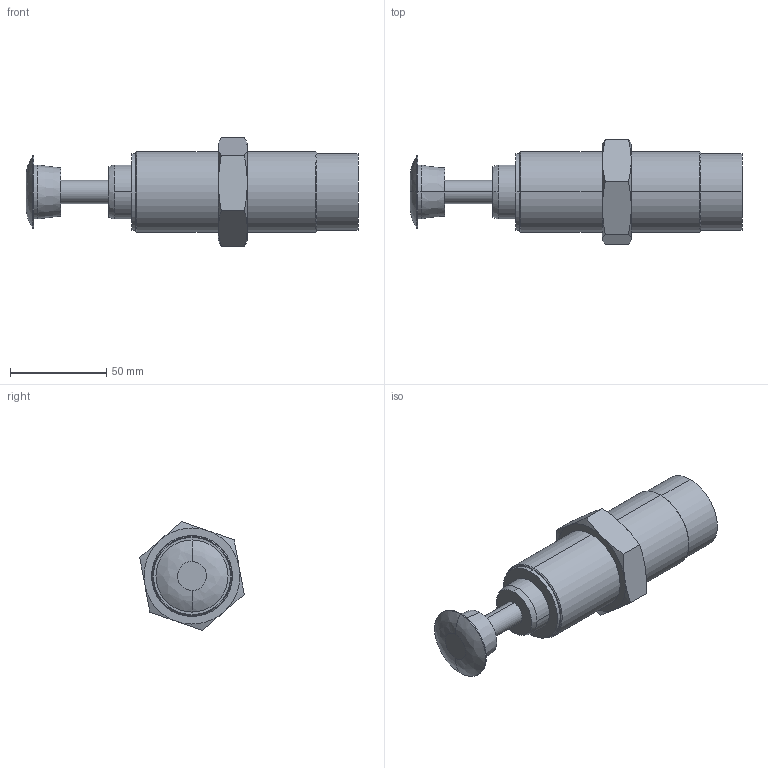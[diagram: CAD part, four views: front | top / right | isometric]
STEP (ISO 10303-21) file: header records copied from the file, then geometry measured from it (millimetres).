
FILE_DESCRIPTION (( 'STEP AP203' ), '1' );
FILE_NAME ('FSA-4225CD.STEP', '2016-03-17T07:50:56', ( 'Sam Lin' ), ( '' ), 'SwSTEP 2.0', 'SolidWorks 2013', '' );
FILE_SCHEMA (( 'CONFIG_CONTROL_DESIGN' ));
Length unit declared in the file: metre
Products named in the file (3): FSA-4225CD_1; M42x1.5-15mm_1; FSA-4225CD
Assembly tree (2 placements, depth 2):
  FSA-4225CD
    FSA-4225CD_1
    M42x1.5-15mm_1
Bounding box: 172.5 x 54.36 x 56.63 mm (x, y, z)
Volume: 192283.6 mm3; surface area: 29123 mm2
Topology: 2 solids, 2 shells, 54 faces, 114 edges, 70 vertices
Faces by surface type: cylinder 16, plane 16, bspline 16, cone 6
Entity records: 2117 total; most frequent: CARTESIAN_POINT 787, ORIENTED_EDGE 228, DIRECTION 198, EDGE_CURVE 114, AXIS2_PLACEMENT_3D 85, VERTEX_POINT 70, EDGE_LOOP 62, FACE_OUTER_BOUND 54
